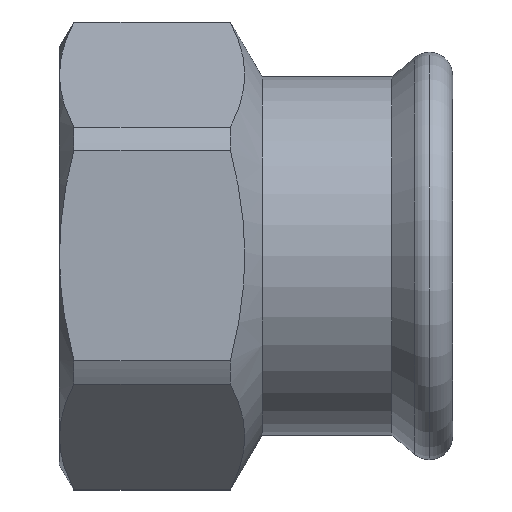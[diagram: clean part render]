
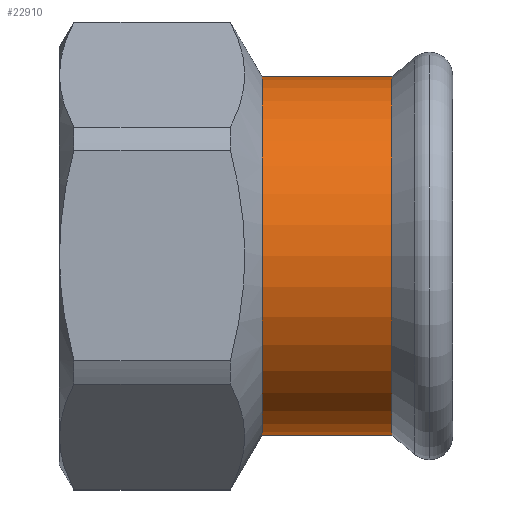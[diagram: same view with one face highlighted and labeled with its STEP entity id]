
A CAD part, top view. The second image highlights one B-rep face of the part: STEP entity #22910.
In plain terms, the highlighted cylindrical face has radius 28.7 mm (diameter 57.4 mm), a partial arc.
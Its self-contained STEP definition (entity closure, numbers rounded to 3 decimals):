
#1880=CARTESIAN_POINT('',(869.659,47.629,
0.));
#1890=VERTEX_POINT('',#1880);
#5070=CARTESIAN_POINT('',(869.659,105.029,0.));
#5080=VERTEX_POINT('',#5070);
#5110=CARTESIAN_POINT('',(869.659,76.329,0.));
#5120=DIRECTION('',(-1.,0.,0.));
#5130=DIRECTION('',(0.,1.,0.));
#5140=AXIS2_PLACEMENT_3D('',#5110,#5120,#5130);
#5150=CIRCLE('',#5140,28.7);
#5160=EDGE_CURVE('',#1890,#5080,#5150,.T.);
#22360=CARTESIAN_POINT('',(890.434,47.629,0.));
#22370=VERTEX_POINT('',#22360);
#22550=CARTESIAN_POINT('',(890.434,105.029,
0.));
#22560=VERTEX_POINT('',#22550);
#22590=CARTESIAN_POINT('',(890.434,76.329,0.));
#22600=DIRECTION('',(1.,0.,0.));
#22610=DIRECTION('',(0.,1.,0.));
#22620=AXIS2_PLACEMENT_3D('',#22590,#22600,#22610);
#22630=CIRCLE('',#22620,28.7);
#22690=CARTESIAN_POINT('',(877.538,76.329,0.));
#22700=DIRECTION('',(-1.,0.,0.));
#22710=DIRECTION('',(0.,1.,0.));
#22720=AXIS2_PLACEMENT_3D('',#22690,#22700,#22710);
#22730=CYLINDRICAL_SURFACE('',#22720,28.7);
#22740=CARTESIAN_POINT('',(877.538,105.029,0.));
#22750=DIRECTION('',(-1.,0.,0.));
#22760=VECTOR('',#22750,1.);
#22770=LINE('',#22740,#22760);
#22780=EDGE_CURVE('',#22560,#5080,#22770,.T.);
#22790=ORIENTED_EDGE('',*,*,#22780,.T.);
#22800=EDGE_CURVE('',#22560,#22370,#22630,.T.);
#22810=ORIENTED_EDGE('',*,*,#22800,.F.);
#22820=CARTESIAN_POINT('',(877.538,47.629,
0.));
#22830=DIRECTION('',(-1.,0.,0.));
#22840=VECTOR('',#22830,1.);
#22850=LINE('',#22820,#22840);
#22860=EDGE_CURVE('',#22370,#1890,#22850,.T.);
#22870=ORIENTED_EDGE('',*,*,#22860,.F.);
#22880=ORIENTED_EDGE('',*,*,#5160,.F.);
#22890=EDGE_LOOP('',(#22880,#22870,#22810,#22790));
#22900=FACE_OUTER_BOUND('',#22890,.T.);
#22910=ADVANCED_FACE('',(#22900),#22730,.T.);
